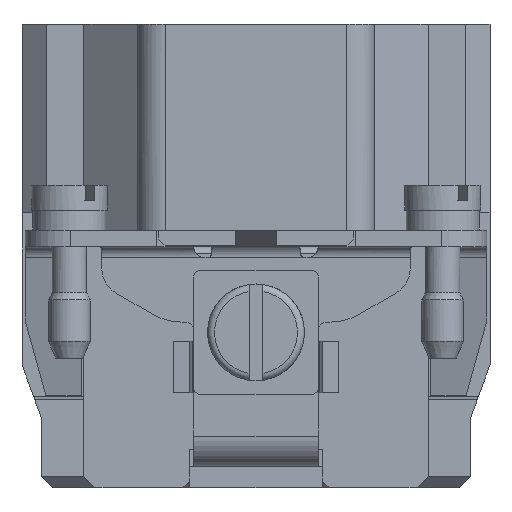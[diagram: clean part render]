
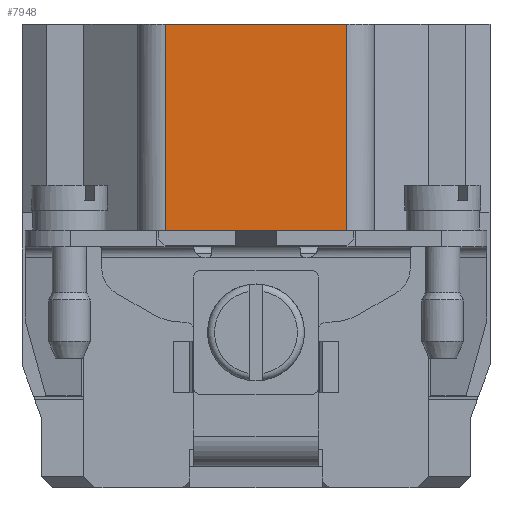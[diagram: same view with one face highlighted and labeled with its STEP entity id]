
A CAD part, left-side view. The second image highlights one B-rep face of the part: STEP entity #7948.
In plain terms, the highlighted planar face has unit normal (-1, 0, 0).
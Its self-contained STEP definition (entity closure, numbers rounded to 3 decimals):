
#4676=LINE('',#31869,#6355);
#4983=LINE('',#32684,#6662);
#5021=LINE('',#32749,#6700);
#5022=LINE('',#32750,#6701);
#6355=VECTOR('',#25782,1.);
#6662=VECTOR('',#26407,1.);
#6700=VECTOR('',#26473,1.);
#6701=VECTOR('',#26474,1.);
#7948=ADVANCED_FACE('',(#9784),#9157,.T.);
#9157=PLANE('',#23669);
#9784=FACE_OUTER_BOUND('',#10690,.T.);
#10690=EDGE_LOOP('',(#13399,#13400,#13401,#13402));
#13399=ORIENTED_EDGE('',*,*,#20492,.T.);
#13400=ORIENTED_EDGE('',*,*,#20531,.T.);
#13401=ORIENTED_EDGE('',*,*,#20082,.F.);
#13402=ORIENTED_EDGE('',*,*,#20532,.T.);
#18104=VERTEX_POINT('',#31831);
#18123=VERTEX_POINT('',#31868);
#18472=VERTEX_POINT('',#32683);
#18473=VERTEX_POINT('',#32685);
#20082=EDGE_CURVE('',#18123,#18104,#4676,.T.);
#20492=EDGE_CURVE('',#18473,#18472,#4983,.T.);
#20531=EDGE_CURVE('',#18472,#18104,#5021,.T.);
#20532=EDGE_CURVE('',#18123,#18473,#5022,.T.);
#23669=AXIS2_PLACEMENT_3D('',#32751,#26475,#26476);
#25782=DIRECTION('',(0.,1.,0.));
#26407=DIRECTION('',(0.,1.,0.));
#26473=DIRECTION('',(0.,0.,-1.));
#26474=DIRECTION('',(0.,0.,1.));
#26475=DIRECTION('',(-1.,0.,0.));
#26476=DIRECTION('',(0.,0.,-1.));
#31831=CARTESIAN_POINT('',(-31.925,6.55,1.2));
#31868=CARTESIAN_POINT('',(-31.925,-6.55,1.2));
#31869=CARTESIAN_POINT('',(-31.925,0.,1.2));
#32683=CARTESIAN_POINT('',(-31.925,6.55,16.1));
#32684=CARTESIAN_POINT('',(-31.925,-8.55,16.1));
#32685=CARTESIAN_POINT('',(-31.925,-6.55,16.1));
#32749=CARTESIAN_POINT('',(-31.925,6.55,16.1));
#32750=CARTESIAN_POINT('',(-31.925,-6.55,16.1));
#32751=CARTESIAN_POINT('',(-31.925,0.,16.1));
